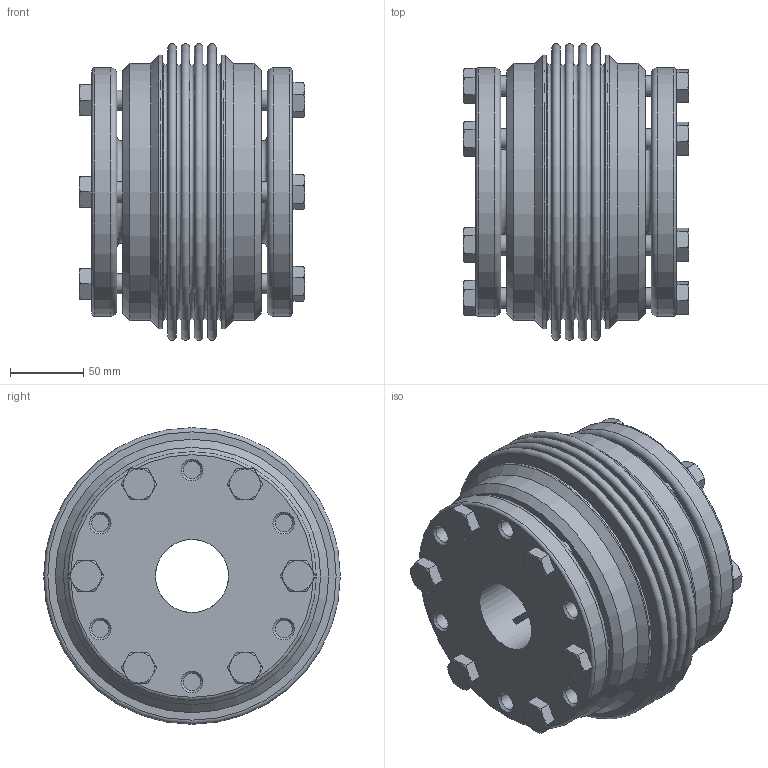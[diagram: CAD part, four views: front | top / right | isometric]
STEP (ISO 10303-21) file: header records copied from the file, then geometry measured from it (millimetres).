
FILE_DESCRIPTION(/* description */ ('Unknown','CAx-IF Rec.Pracs.---Representation and Presentation of Product Manufacturing Information (PMI)---4.0---2014-10-13','CAx-IF Rec.Pracs.---3D Tessellated Geometry---0.4---2014-09-14','2;1'),/* implementation_level */ '2;1');
FILE_NAME(/* name */ 'MB-03124758',/* time_stamp */ '2023-12-13T08:11:06+01:00',/* author */ ('Unknown'),/* organization */ ('Unknown'),/* preprocessor_version */ 'ST-DEVELOPER v18.102',/* originating_system */ 'Solid Edge',/* authorisation */ 'Unknown');
FILE_SCHEMA (('AP242_MANAGED_MODEL_BASED_3D_ENGINEERING_MIM_LF { 1 0 10303 442 1 1 4 }'));
Length unit declared in the file: millimetre
Products named in the file (1): MB-03124758
Bounding box: 154.49 x 203 x 203 mm (x, y, z)
Volume: 2710316 mm3; surface area: 502141 mm2
Topology: 1 solids, 13 shells, 464 faces, 1106 edges, 700 vertices
Faces by surface type: plane 178, cone 132, cylinder 92, torus 62
Full cylindrical faces by diameter (mm): 11.835 x24, 14 x24, 14.5 x12, 19.37 x12, 50 x2, 168 x2, 170 x2, 176 x2, 186 x2, 187 x2
Entity records: 15104 total; most frequent: CARTESIAN_POINT 2574, DIRECTION 1964, ORIENTED_EDGE 1608, AXIS2_PLACEMENT_3D 870, EDGE_CURVE 804, FACE_BOUND 780, EDGE_LOOP 768, VERTEX_POINT 616
